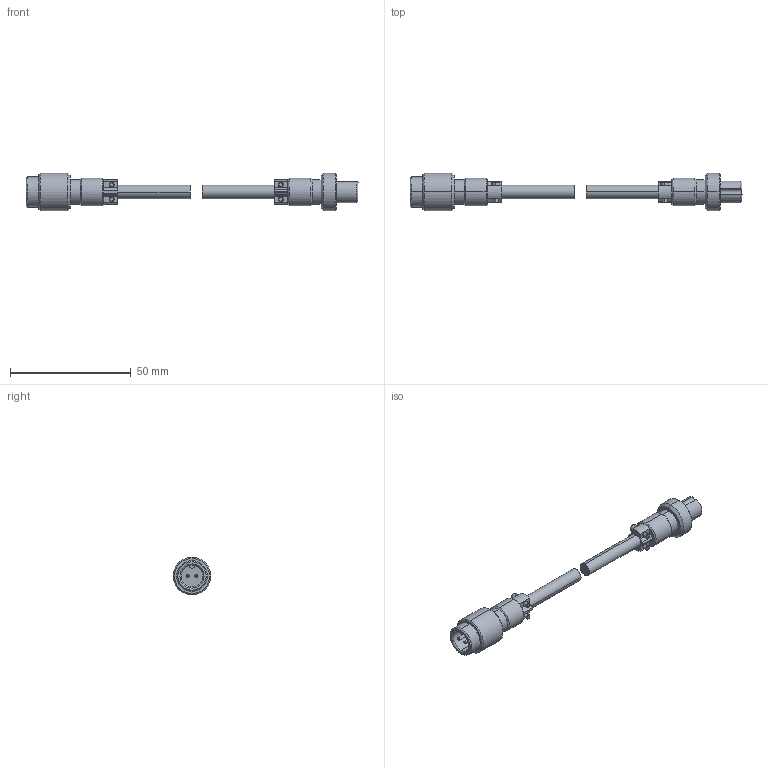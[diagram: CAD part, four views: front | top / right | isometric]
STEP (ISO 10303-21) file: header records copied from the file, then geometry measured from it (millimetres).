
FILE_DESCRIPTION((''),'2;1');
FILE_NAME('MV-LW-005-1-B_ASM','2021-01-09T',('win7'),(''),'PRO/ENGINEER BY PARAMETRIC TECHNOLOGY CORPORATION, 2010100','PRO/ENGINEER BY PARAMETRIC TECHNOLOGY CORPORATION, 2010100','');
FILE_SCHEMA(('CONFIG_CONTROL_DESIGN'));
Length unit declared in the file: millimetre
Products named in the file (3): 12M-2A-; 12M-2K-; MV-LW-005-1-B_ASM
Assembly tree (2 placements, depth 2):
  MV-LW-005-1-B_ASM
    12M-2A-
    12M-2K-
Bounding box: 137.5 x 15.5 x 15.5 mm (x, y, z)
Volume: 8926 mm3; surface area: 5098.9 mm2
Topology: 2 solids, 2 shells, 204 faces, 483 edges, 306 vertices
Faces by surface type: plane 108, cylinder 55, cone 41
Entity records: 5942 total; most frequent: DIRECTION 1052, CARTESIAN_POINT 1028, ORIENTED_EDGE 966, EDGE_CURVE 483, AXIS2_PLACEMENT_3D 370, VECTOR 312, LINE 312, VERTEX_POINT 306
